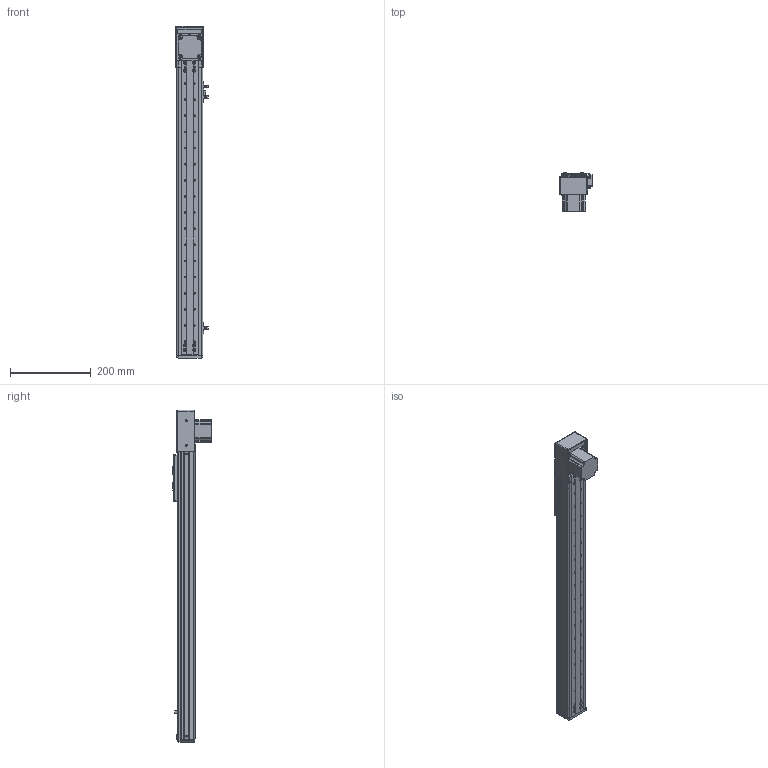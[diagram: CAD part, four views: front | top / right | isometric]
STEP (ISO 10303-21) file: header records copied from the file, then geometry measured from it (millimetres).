
FILE_DESCRIPTION (( 'STEP AP203' ), '1' );
FILE_NAME ('RY60F-T-350-DK.SLDASM_550.step', '2021-03-02T00:55:56', ( '盈信电脑' ), ( '东莞市道滘镇水果街19号' ), 'SwSTEP 2.0', 'SolidWorks 2012', '' );
FILE_SCHEMA (( 'CONFIG_CONTROL_DESIGN' ));
Length unit declared in the file: millimetre
Products named in the file (19): RY60F-T-350-DK.SLDASM_550; RY60F-肮祭湍揤輸; 57祭輛萇儂; RY60F-T-狟殏欶; RY60F-肮祭湍揤輸2; RY60F-T-下折同步带拉紧板; RY60F-T-57萇儂奻殏假蚾啣; 滅袉蝶18-24; RY60F-350-肮祭湍滅鳥詩え-DK_550; RY60F-350肮祭湍俋褲-DK_550; RY50F-350-MR15W絳寢-DK_550; 覜茼ん672; RY60F-嫖萇羲壽結え; RY60F-祥凄詩滅鳥裔; RY50-60詩湍揤啣; RY60F-T-下折57电机端同步轮座; RY60F-滅鳥詩え盓殤; RY60F-浮动端同步轮支撑座; RY60F-肮祭湍臏賑輸
Assembly tree (23 placements, depth 2):
  RY60F-T-350-DK.SLDASM_550
    RY60F-肮祭湍臏賑輸
    RY60F-浮动端同步轮支撑座
    RY60F-滅鳥詩え盓殤
    RY60F-嫖萇羲壽結え
    RY50-60詩湍揤啣  x2
    RY60F-祥凄詩滅鳥裔
    RY60F-T-下折57电机端同步轮座
    RY60F-350肮祭湍俋褲-DK_550  x2
    覜茼ん672  x3
    RY60F-350-肮祭湍滅鳥詩え-DK_550
    RY50F-350-MR15W絳寢-DK_550
    滅袉蝶18-24  x2
    RY60F-T-57萇儂奻殏假蚾啣
    RY60F-T-下折同步带拉紧板
    RY60F-肮祭湍揤輸
    RY60F-肮祭湍揤輸2
    57祭輛萇儂
    RY60F-T-狟殏欶
Bounding box: 80.76 x 96.5 x 823 mm (x, y, z)
Volume: 871350.4 mm3; surface area: 545713.9 mm2
Topology: 23 solids, 23 shells, 1170 faces, 3206 edges, 2060 vertices
Faces by surface type: plane 546, cylinder 543, cone 71, bspline 10
Entity records: 35981 total; most frequent: CARTESIAN_POINT 6529, DIRECTION 5804, ORIENTED_EDGE 5588, EDGE_CURVE 2794, AXIS2_PLACEMENT_3D 2043, VERTEX_POINT 1828, VECTOR 1718, LINE 1718
